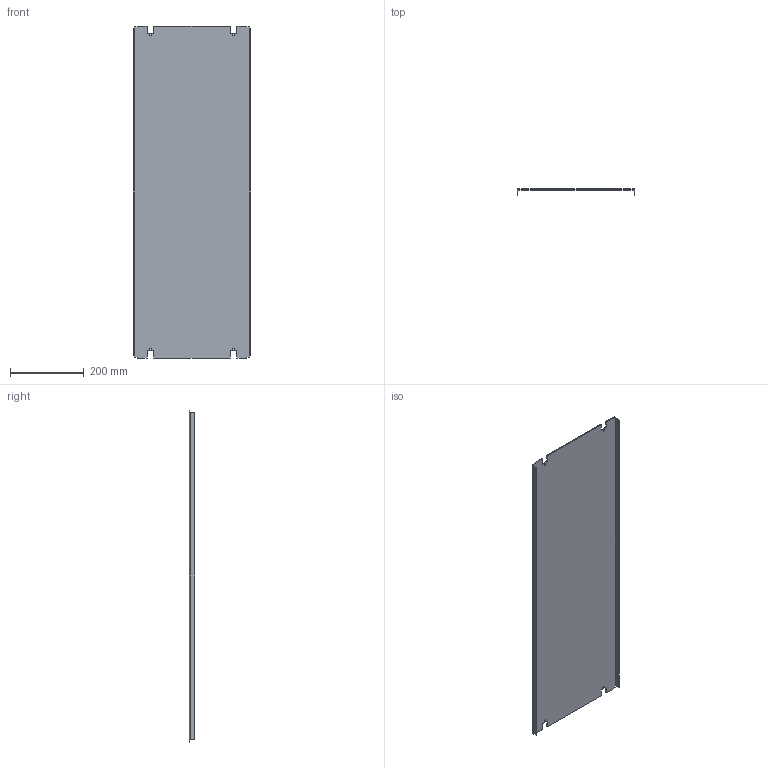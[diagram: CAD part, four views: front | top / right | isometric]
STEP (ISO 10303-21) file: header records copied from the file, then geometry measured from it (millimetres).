
FILE_DESCRIPTION(('CAx-IF Rec.Pracs.---Model Styling and Organization---1.2---2011-12-15','CAx-IF Rec.Pracs.---Geometric and Assembly Validation Properties---4.1---2014-06-16','CAx-IF Rec.Pracs.---PMI Polyline Presentation---2.0---2013-05-24'),'2;1');
FILE_NAME('R5CPL1035.stp','2021-05-06T03:47:21+03:00',(''),(''),'STEP Interface 4.4 by CT CoreTechnologie','3D_Evolution4.4 by CT CoreTechnologie','');
FILE_SCHEMA(('AUTOMOTIVE_DESIGN { 1 0 10303 214 1 1 1 1 }'));
Length unit declared in the file: millimetre
Products named in the file (2): R5CPL1035; RB.0549.00.00.0_-23
Assembly tree (1 placements, depth 2):
  R5CPL1035
    RB.0549.00.00.0_-23
Bounding box: 319 x 15 x 899 mm (x, y, z)
Surface area: 619341.7 mm2 (no closed solid volume)
Topology: 0 solids, 1 shells, 56 faces, 158 edges, 104 vertices
Faces by surface type: plane 44, cylinder 12
Entity records: 1883 total; most frequent: CARTESIAN_POINT 320, ORIENTED_EDGE 316, DIRECTION 298, EDGE_CURVE 158, VECTOR 134, LINE 134, VERTEX_POINT 104, AXIS2_PLACEMENT_3D 82
